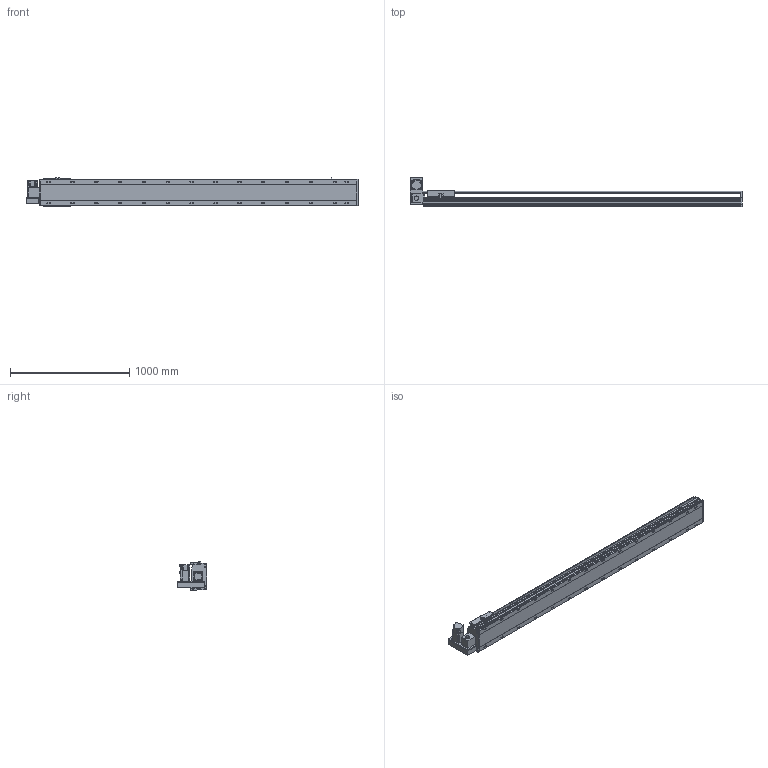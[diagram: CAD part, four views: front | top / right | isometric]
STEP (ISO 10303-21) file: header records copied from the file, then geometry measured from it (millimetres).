
FILE_DESCRIPTION(/* description */ ('STEP AP214'),/* implementation_level */ '2;1');
FILE_NAME(/* name */ 'PBS220-P40-S2300-LU-T75-C1-N(0)',/* time_stamp */ '2022-06-13T02:31:42+02:00',/* author */ ('License CC BY-ND 4.0'),/* organization */ ('CADENAS'),/* preprocessor_version */ 'ST-DEVELOPER v18.102',/* originating_system */ 'PARTsolutions',/* authorisation */ ' ');
FILE_SCHEMA (('AUTOMOTIVE_DESIGN {1 0 10303 214 3 1 1}'));
Length unit declared in the file: millimetre
Products named in the file (7): PBS220-P40-S2300-LU-T75-C1-N(0); PBS220_sensor; PBS220_plant; PBS220_sliser; T75-p1; PBS220T-LU_motors; PBS220-S2300()_body
Assembly tree (8 placements, depth 2):
  PBS220-P40-S2300-LU-T75-C1-N(0)
    PBS220_sensor  x3
    PBS220_plant
    PBS220_sliser
    T75-p1
    PBS220T-LU_motors
    PBS220-S2300()_body
Bounding box: 2784 x 247 x 238.5 mm (x, y, z)
Volume: 38962591.1 mm3; surface area: 3590953.4 mm2
Topology: 8 solids, 8 shells, 986 faces, 2564 edges, 1666 vertices
Faces by surface type: plane 622, cylinder 312, cone 52
Full cylindrical faces by diameter (mm): 2.013 x4, 4.5 x14, 4.917 x4, 6 x7, 6.647 x8, 8 x10, 8.376 x28, 8.5 x28, 10 x6, 14 x28, 38 x2, 40 x1, 70 x1
Entity records: 27501 total; most frequent: CARTESIAN_POINT 4888, DIRECTION 4779, ORIENTED_EDGE 4322, EDGE_CURVE 2161, AXIS2_PLACEMENT_3D 1711, VERTEX_POINT 1512, LINE 1357, VECTOR 1357
